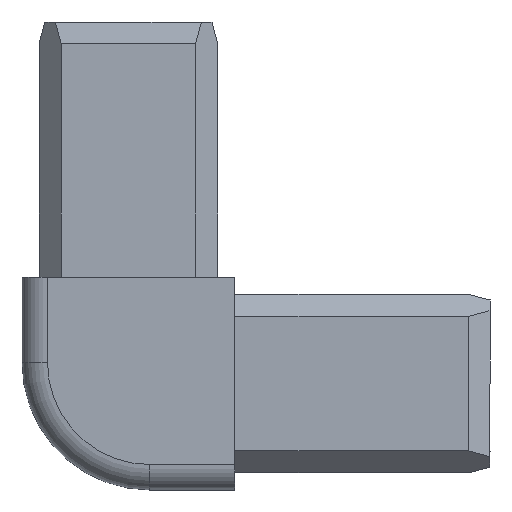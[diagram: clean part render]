
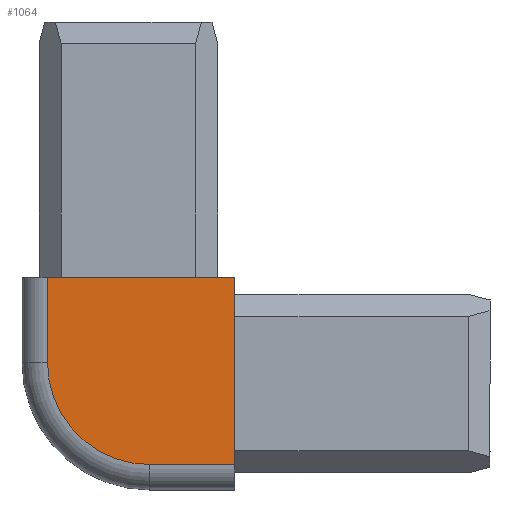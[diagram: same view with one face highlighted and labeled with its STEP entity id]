
A CAD part, left-side view. The second image highlights one B-rep face of the part: STEP entity #1064.
In plain terms, the highlighted planar face has unit normal (-1, 0, 0).
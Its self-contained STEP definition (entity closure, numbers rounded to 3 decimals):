
#98 = ORIENTED_EDGE ( 'NONE', *, *, #275, .T. ) ;
#104 = ORIENTED_EDGE ( 'NONE', *, *, #423, .F. ) ;
#106 = VECTOR ( 'NONE', #1220, 1000. ) ;
#171 = CARTESIAN_POINT ( 'NONE',  ( -12.5, -12.5, 42.5 ) ) ;
#190 = CARTESIAN_POINT ( 'NONE',  ( -12.5, 12.5, 42.5 ) ) ;
#207 = DIRECTION ( 'NONE',  ( 0., 1., 0. ) ) ;
#215 = LINE ( 'NONE', #330, #106 ) ;
#218 = ORIENTED_EDGE ( 'NONE', *, *, #1072, .T. ) ;
#228 = VECTOR ( 'NONE', #512, 1000. ) ;
#275 = EDGE_CURVE ( 'NONE', #1363, #937, #309, .T. ) ;
#309 = CIRCLE ( 'NONE', #1421, 12. ) ;
#313 = ORIENTED_EDGE ( 'NONE', *, *, #1313, .F. ) ;
#315 = CARTESIAN_POINT ( 'NONE',  ( -12.5, 12.5, -9.5 ) ) ;
#318 = EDGE_LOOP ( 'NONE', ( #313, #218, #98, #533, #104 ) ) ;
#330 = CARTESIAN_POINT ( 'NONE',  ( -12.5, 12.5, 12.5 ) ) ;
#361 = VERTEX_POINT ( 'NONE', #1263 ) ;
#418 = DIRECTION ( 'NONE',  ( 0., 0., -1. ) ) ;
#423 = EDGE_CURVE ( 'NONE', #652, #1119, #613, .T. ) ;
#429 = EDGE_CURVE ( 'NONE', #937, #1119, #508, .T. ) ;
#491 = CARTESIAN_POINT ( 'NONE',  ( -12.5, -2.5, -9.5 ) ) ;
#508 = LINE ( 'NONE', #315, #821 ) ;
#512 = DIRECTION ( 'NONE',  ( 0., 0., -1. ) ) ;
#531 = CARTESIAN_POINT ( 'NONE',  ( -12.5, -12.5, -9.5 ) ) ;
#533 = ORIENTED_EDGE ( 'NONE', *, *, #429, .T. ) ;
#538 = PLANE ( 'NONE',  #619 ) ;
#613 = LINE ( 'NONE', #171, #636 ) ;
#619 = AXIS2_PLACEMENT_3D ( 'NONE', #190, #1207, #992 ) ;
#636 = VECTOR ( 'NONE', #418, 1000. ) ;
#652 = VERTEX_POINT ( 'NONE', #788 ) ;
#676 = DIRECTION ( 'NONE',  ( -1., 0., 0. ) ) ;
#788 = CARTESIAN_POINT ( 'NONE',  ( -12.5, -12.5, 12.5 ) ) ;
#821 = VECTOR ( 'NONE', #1417, 1000. ) ;
#874 = FACE_OUTER_BOUND ( 'NONE', #318, .T. ) ;
#937 = VERTEX_POINT ( 'NONE', #491 ) ;
#966 = LINE ( 'NONE', #1433, #228 ) ;
#969 = CARTESIAN_POINT ( 'NONE',  ( -12.5, 9.5, 2.5 ) ) ;
#992 = DIRECTION ( 'NONE',  ( 0., 1., 0. ) ) ;
#1064 = ADVANCED_FACE ( 'NONE', ( #874 ), #538, .F. ) ;
#1072 = EDGE_CURVE ( 'NONE', #361, #1363, #966, .T. ) ;
#1119 = VERTEX_POINT ( 'NONE', #531 ) ;
#1207 = DIRECTION ( 'NONE',  ( 1., 0., 0. ) ) ;
#1220 = DIRECTION ( 'NONE',  ( 0., -1., 0. ) ) ;
#1227 = CARTESIAN_POINT ( 'NONE',  ( -12.5, -2.5, 2.5 ) ) ;
#1263 = CARTESIAN_POINT ( 'NONE',  ( -12.5, 9.5, 12.5 ) ) ;
#1313 = EDGE_CURVE ( 'NONE', #361, #652, #215, .T. ) ;
#1363 = VERTEX_POINT ( 'NONE', #969 ) ;
#1417 = DIRECTION ( 'NONE',  ( 0., -1., 0. ) ) ;
#1421 = AXIS2_PLACEMENT_3D ( 'NONE', #1227, #676, #207 ) ;
#1433 = CARTESIAN_POINT ( 'NONE',  ( -12.5, 9.5, 42.5 ) ) ;
